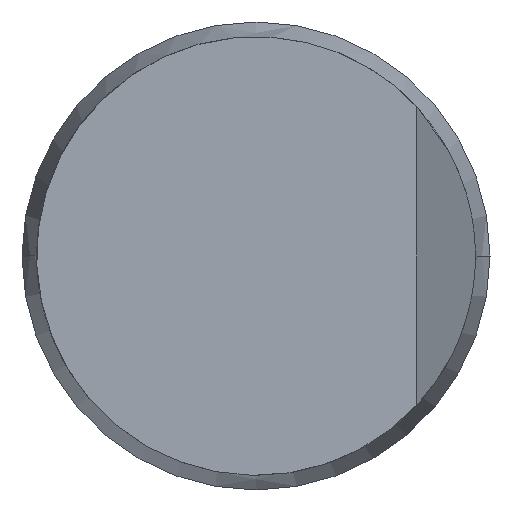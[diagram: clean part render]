
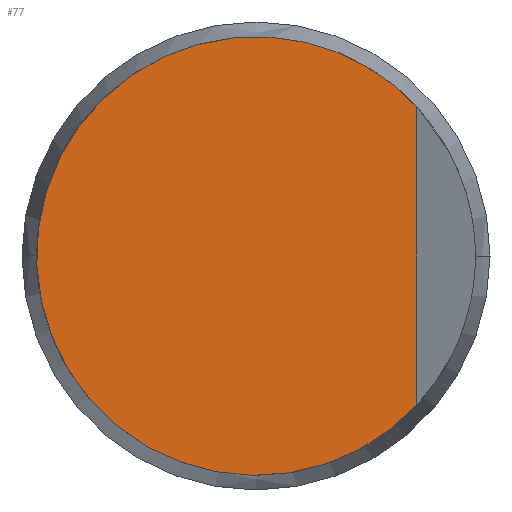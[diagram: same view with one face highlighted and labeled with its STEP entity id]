
A CAD part, left-side view. The second image highlights one B-rep face of the part: STEP entity #77.
In plain terms, the highlighted planar face has unit normal (-1, 0, 0).
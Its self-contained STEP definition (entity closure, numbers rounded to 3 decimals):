
#77=ADVANCED_FACE('',(#121),#120,.T.);
#120=PLANE('',#356);
#121=FACE_OUTER_BOUND('',#357,.T.);
#353=CARTESIAN_POINT('',(252.021,206.674,25.775));
#354=DIRECTION('',(-1.,0.,0.));
#355=DIRECTION('',(0.,1.,0.));
#356=AXIS2_PLACEMENT_3D('',#353,#354,#355);
#357=EDGE_LOOP('',(#554,#555,#556));
#554=ORIENTED_EDGE('',*,*,#649,.F.);
#555=ORIENTED_EDGE('',*,*,#654,.F.);
#556=ORIENTED_EDGE('',*,*,#655,.F.);
#649=EDGE_CURVE('',#705,#698,#712,.T.);
#654=EDGE_CURVE('',#746,#705,#747,.T.);
#655=EDGE_CURVE('',#698,#746,#753,.T.);
#698=VERTEX_POINT('',#1029);
#705=VERTEX_POINT('',#1033);
#712=LINE('',#1037,#1038);
#746=VERTEX_POINT('',#1060);
#747=CIRCLE('',#1064,15.);
#753=CIRCLE('',#1068,15.);
#1029=CARTESIAN_POINT('',(252.021,209.922,-10.198));
#1033=CARTESIAN_POINT('',(252.021,209.922,10.198));
#1037=CARTESIAN_POINT('',(252.021,209.922,10.198));
#1038=VECTOR('',#1039,20.396);
#1039=DIRECTION('',(0.,0.,-1.));
#1060=CARTESIAN_POINT('',(252.021,217.406,14.582));
#1061=CARTESIAN_POINT('',(252.021,220.922,0.));
#1062=DIRECTION('',(1.,0.,0.));
#1063=DIRECTION('',(0.,-0.733,-0.68));
#1064=AXIS2_PLACEMENT_3D('',#1061,#1062,#1063);
#1065=CARTESIAN_POINT('',(252.021,220.922,0.));
#1066=DIRECTION('',(1.,0.,0.));
#1067=DIRECTION('',(0.,-0.733,-0.68));
#1068=AXIS2_PLACEMENT_3D('',#1065,#1066,#1067);
